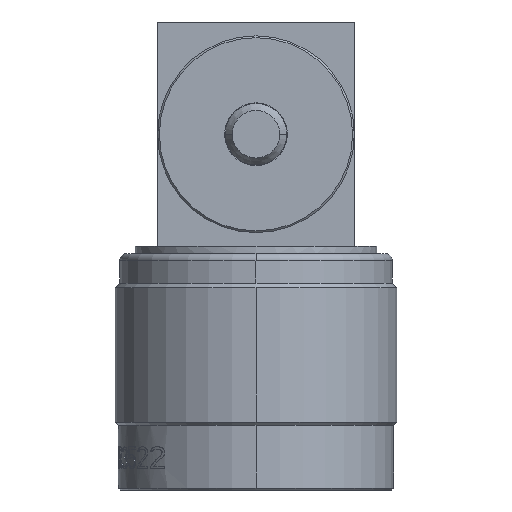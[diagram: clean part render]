
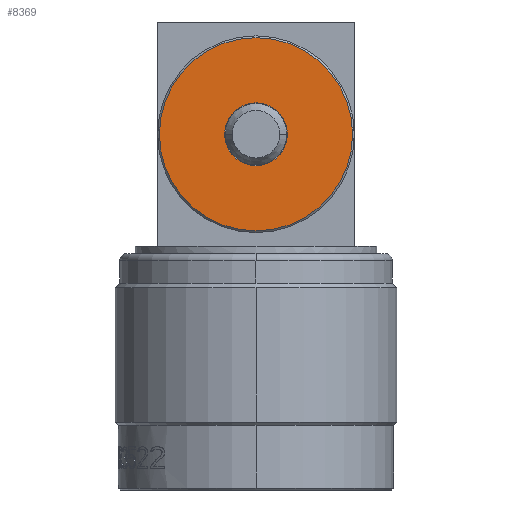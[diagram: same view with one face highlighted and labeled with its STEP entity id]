
A CAD part, front view. The second image highlights one B-rep face of the part: STEP entity #8369.
In plain terms, the highlighted planar face has unit normal (0, -1, 0).
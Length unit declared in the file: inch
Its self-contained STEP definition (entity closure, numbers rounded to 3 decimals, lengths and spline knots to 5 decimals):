
#1486=CARTESIAN_POINT('',(0.,0.,0.));
#1487=DIRECTION('',(0.,1.,0.));
#1488=DIRECTION('',(-1.,0.,0.));
#1489=AXIS2_PLACEMENT_3D('',#1486,#1487,#1488);
#1491=CARTESIAN_POINT('',(0.,0.,0.));
#1492=DIRECTION('',(0.,1.,0.));
#1493=DIRECTION('',(1.,0.,0.));
#1494=AXIS2_PLACEMENT_3D('',#1491,#1492,#1493);
#1496=CARTESIAN_POINT('',(0.,0.,0.));
#1497=DIRECTION('',(0.,1.,0.));
#1498=DIRECTION('',(0.,0.,-1.));
#1499=AXIS2_PLACEMENT_3D('',#1496,#1497,#1498);
#1501=CARTESIAN_POINT('',(0.,0.,0.));
#1502=DIRECTION('',(0.,-1.,0.));
#1503=DIRECTION('',(-1.,0.,0.));
#1504=AXIS2_PLACEMENT_3D('',#1501,#1502,#1503);
#1506=CARTESIAN_POINT('',(0.,0.,0.));
#1507=DIRECTION('',(0.,-1.,0.));
#1508=DIRECTION('',(1.,0.,0.));
#1509=AXIS2_PLACEMENT_3D('',#1506,#1507,#1508);
#6280=CARTESIAN_POINT('',(-0.2745,0.,0.));
#6281=CARTESIAN_POINT('',(0.2745,0.,0.));
#6282=VERTEX_POINT('',#6280);
#6283=VERTEX_POINT('',#6281);
#6284=CARTESIAN_POINT('',(0.,0.,-0.2745));
#6285=VERTEX_POINT('',#6284);
#6286=CARTESIAN_POINT('',(-0.0891,0.,0.));
#6287=CARTESIAN_POINT('',(0.0891,0.,0.));
#6288=VERTEX_POINT('',#6286);
#6289=VERTEX_POINT('',#6287);
#8351=CARTESIAN_POINT('',(0.,0.,0.));
#8352=DIRECTION('',(0.,1.,0.));
#8353=DIRECTION('',(1.,0.,0.));
#8354=AXIS2_PLACEMENT_3D('',#8351,#8352,#8353);
#8355=PLANE('',#8354);
#8356=ORIENTED_EDGE('',*,*,#8341,.T.);
#8358=ORIENTED_EDGE('',*,*,#8357,.T.);
#8360=ORIENTED_EDGE('',*,*,#8359,.T.);
#8361=EDGE_LOOP('',(#8356,#8358,#8360));
#8362=FACE_OUTER_BOUND('',#8361,.F.);
#8364=ORIENTED_EDGE('',*,*,#8363,.T.);
#8366=ORIENTED_EDGE('',*,*,#8365,.T.);
#8367=EDGE_LOOP('',(#8364,#8366));
#8368=FACE_BOUND('',#8367,.F.);
#8369=ADVANCED_FACE('',(#8362,#8368),#8355,.F.);
#1490=CIRCLE('',#1489,0.2745);
#1495=CIRCLE('',#1494,0.2745);
#1500=CIRCLE('',#1499,0.2745);
#1505=CIRCLE('',#1504,0.0891);
#1510=CIRCLE('',#1509,0.0891);
#8341=EDGE_CURVE('',#6282,#6283,#1490,.T.);
#8357=EDGE_CURVE('',#6283,#6285,#1495,.T.);
#8359=EDGE_CURVE('',#6285,#6282,#1500,.T.);
#8363=EDGE_CURVE('',#6288,#6289,#1505,.T.);
#8365=EDGE_CURVE('',#6289,#6288,#1510,.T.);
